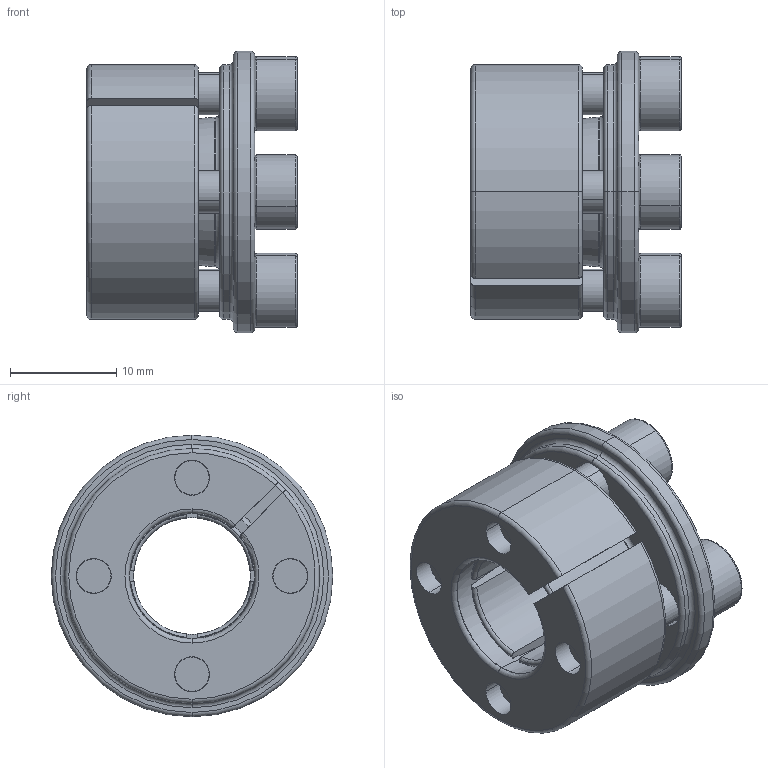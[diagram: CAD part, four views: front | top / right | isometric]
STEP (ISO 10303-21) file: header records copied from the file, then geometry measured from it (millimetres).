
FILE_DESCRIPTION (( 'STEP AP203' ), '1' );
FILE_NAME ('SAPA-11-24-45C.STEP', '2013-01-22T06:37:32', ( '' ), ( '' ), 'SwSTEP 2.0', 'SolidWorks 2012', '' );
FILE_SCHEMA (( 'CONFIG_CONTROL_DESIGN' ));
Length unit declared in the file: millimetre
Products named in the file (1): SAPA-11-24-45C
Bounding box: 19.8 x 26.5 x 26.5 mm (x, y, z)
Volume: 5559.8 mm3; surface area: 4267 mm2
Topology: 1 solids, 1 shells, 224 faces, 581 edges, 352 vertices
Faces by surface type: plane 83, torus 61, cylinder 57, cone 23
Entity records: 7105 total; most frequent: CARTESIAN_POINT 1452, DIRECTION 1256, ORIENTED_EDGE 1146, EDGE_CURVE 573, AXIS2_PLACEMENT_3D 526, VERTEX_POINT 352, CIRCLE 301, EDGE_LOOP 247
